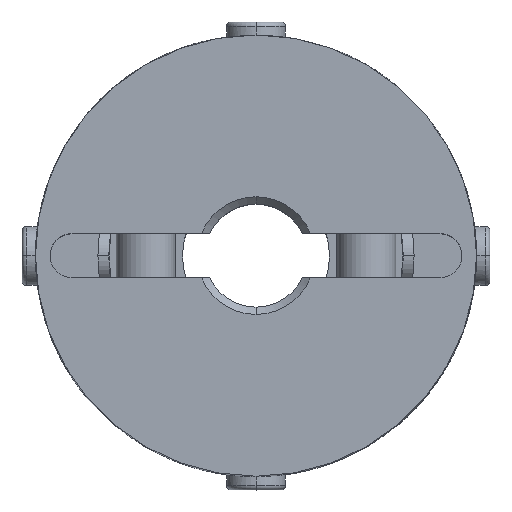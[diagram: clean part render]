
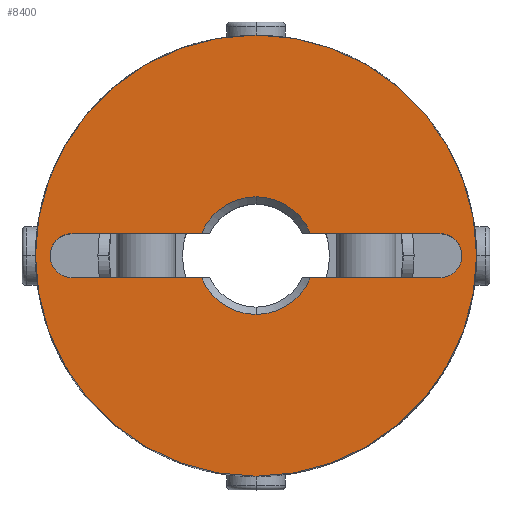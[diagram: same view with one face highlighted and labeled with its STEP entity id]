
A CAD part, top view. The second image highlights one B-rep face of the part: STEP entity #8400.
In plain terms, the highlighted planar face has unit normal (0, 0, 1).
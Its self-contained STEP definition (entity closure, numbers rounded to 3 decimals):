
#649=CARTESIAN_POINT('',(0.,4.,15.0));
#650=VERTEX_POINT('',#649);
#666=CARTESIAN_POINT('',(3.708,1.5,15.0));
#667=VERTEX_POINT('',#666);
#681=CARTESIAN_POINT('',(0.,0.,15.0));
#682=DIRECTION('',(0.0,0.0,1.0));
#683=DIRECTION('',(0.0,1.0,0.0));
#684=AXIS2_PLACEMENT_3D('',#681,#682,#683);
#685=CIRCLE('',#684,4.0);
#686=EDGE_CURVE('',#667,#650,#685,.T.);
#696=CARTESIAN_POINT('',(0.,-4.,15.0));
#697=VERTEX_POINT('',#696);
#706=CARTESIAN_POINT('',(3.708,-1.5,15.0));
#707=VERTEX_POINT('',#706);
#708=CARTESIAN_POINT('',(0.,0.,15.0));
#709=DIRECTION('',(0.0,0.0,1.0));
#710=DIRECTION('',(0.0,1.0,0.0));
#711=AXIS2_PLACEMENT_3D('',#708,#709,#710);
#712=CIRCLE('',#711,4.0);
#713=EDGE_CURVE('',#697,#707,#712,.T.);
#872=CARTESIAN_POINT('',(-13.561,-1.061,15.0));
#873=VERTEX_POINT('',#872);
#889=CARTESIAN_POINT('',(-12.5,1.5,15.0));
#890=VERTEX_POINT('',#889);
#897=CARTESIAN_POINT('',(-12.5,0.,15.0));
#898=DIRECTION('',(0.0,0.0,1.0));
#899=DIRECTION('',(-0.707,0.707,0.0));
#900=AXIS2_PLACEMENT_3D('',#897,#898,#899);
#901=CIRCLE('',#900,1.5);
#902=EDGE_CURVE('',#890,#873,#901,.T.);
#914=CARTESIAN_POINT('',(13.561,-1.061,15.0));
#915=VERTEX_POINT('',#914);
#931=CARTESIAN_POINT('',(12.5,-1.5,15.0));
#932=VERTEX_POINT('',#931);
#939=CARTESIAN_POINT('',(12.5,0.,15.0));
#940=DIRECTION('',(0.0,0.0,1.0));
#941=DIRECTION('',(0.707,-0.707,0.0));
#942=AXIS2_PLACEMENT_3D('',#939,#940,#941);
#943=CIRCLE('',#942,1.5);
#944=EDGE_CURVE('',#932,#915,#943,.T.);
#1489=CARTESIAN_POINT('',(0.,-15.,15.0));
#1490=VERTEX_POINT('',#1489);
#1497=CARTESIAN_POINT('',(0.,15.0,15.0));
#1498=VERTEX_POINT('',#1497);
#1499=CARTESIAN_POINT('',(0.,0.,15.0));
#1500=DIRECTION('',(0.0,0.0,-1.0));
#1501=DIRECTION('',(0.0,1.0,0.0));
#1502=AXIS2_PLACEMENT_3D('',#1499,#1500,#1501);
#1503=CIRCLE('',#1502,15.0);
#1504=EDGE_CURVE('',#1490,#1498,#1503,.T.);
#7601=CARTESIAN_POINT('',(0.,0.,15.0));
#7602=DIRECTION('',(0.0,0.0,-1.0));
#7603=DIRECTION('',(0.0,1.0,0.0));
#7604=AXIS2_PLACEMENT_3D('',#7601,#7602,#7603);
#7605=CIRCLE('',#7604,15.0);
#7606=EDGE_CURVE('',#1498,#1490,#7605,.T.);
#8166=CARTESIAN_POINT('',(12.5,1.5,15.0));
#8167=VERTEX_POINT('',#8166);
#8174=CARTESIAN_POINT('',(3.708,1.5,15.0));
#8175=DIRECTION('',(1.0,0.0,0.0));
#8176=VECTOR('',#8175,8.792);
#8177=LINE('',#8174,#8176);
#8178=EDGE_CURVE('',#667,#8167,#8177,.T.);
#8202=CARTESIAN_POINT('',(12.5,0.,15.0));
#8203=DIRECTION('',(0.0,0.0,1.0));
#8204=DIRECTION('',(0.707,-0.707,0.0));
#8205=AXIS2_PLACEMENT_3D('',#8202,#8203,#8204);
#8206=CIRCLE('',#8205,1.5);
#8207=EDGE_CURVE('',#915,#8167,#8206,.T.);
#8220=CARTESIAN_POINT('',(-12.5,-1.5,15.0));
#8221=VERTEX_POINT('',#8220);
#8222=CARTESIAN_POINT('',(-12.5,0.,15.0));
#8223=DIRECTION('',(0.0,0.0,1.0));
#8224=DIRECTION('',(-0.707,0.707,0.0));
#8225=AXIS2_PLACEMENT_3D('',#8222,#8223,#8224);
#8226=CIRCLE('',#8225,1.5);
#8227=EDGE_CURVE('',#873,#8221,#8226,.T.);
#8260=CARTESIAN_POINT('',(-3.708,1.5,15.0));
#8261=VERTEX_POINT('',#8260);
#8275=CARTESIAN_POINT('',(-12.5,1.5,15.0));
#8276=DIRECTION('',(1.0,0.0,0.0));
#8277=VECTOR('',#8276,8.792);
#8278=LINE('',#8275,#8277);
#8279=EDGE_CURVE('',#890,#8261,#8278,.T.);
#8294=CARTESIAN_POINT('',(-3.708,-1.5,15.0));
#8295=VERTEX_POINT('',#8294);
#8296=CARTESIAN_POINT('',(-3.708,-1.5,15.0));
#8297=DIRECTION('',(-1.0,0.0,0.0));
#8298=VECTOR('',#8297,8.792);
#8299=LINE('',#8296,#8298);
#8300=EDGE_CURVE('',#8295,#8221,#8299,.T.);
#8352=CARTESIAN_POINT('',(12.5,-1.5,15.0));
#8353=DIRECTION('',(-1.0,0.0,0.0));
#8354=VECTOR('',#8353,8.792);
#8355=LINE('',#8352,#8354);
#8356=EDGE_CURVE('',#932,#707,#8355,.T.);
#8365=CARTESIAN_POINT('',(0.,1.364,15.0));
#8366=DIRECTION('',(0.0,0.0,1.0));
#8367=DIRECTION('',(0.0,1.0,0.0));
#8368=AXIS2_PLACEMENT_3D('',#8365,#8366,#8367);
#8369=PLANE('',#8368);
#8370=ORIENTED_EDGE('',*,*,#7606,.F.);
#8371=ORIENTED_EDGE('',*,*,#1504,.F.);
#8372=EDGE_LOOP('',(#8370,#8371));
#8373=FACE_OUTER_BOUND('',#8372,.T.);
#8374=ORIENTED_EDGE('',*,*,#8178,.T.);
#8375=ORIENTED_EDGE('',*,*,#8207,.F.);
#8376=ORIENTED_EDGE('',*,*,#944,.F.);
#8377=ORIENTED_EDGE('',*,*,#8356,.T.);
#8378=ORIENTED_EDGE('',*,*,#713,.F.);
#8379=CARTESIAN_POINT('',(0.,0.,15.0));
#8380=DIRECTION('',(0.0,0.0,1.0));
#8381=DIRECTION('',(0.0,1.0,0.0));
#8382=AXIS2_PLACEMENT_3D('',#8379,#8380,#8381);
#8383=CIRCLE('',#8382,4.0);
#8384=EDGE_CURVE('',#8295,#697,#8383,.T.);
#8385=ORIENTED_EDGE('',*,*,#8384,.F.);
#8386=ORIENTED_EDGE('',*,*,#8300,.T.);
#8387=ORIENTED_EDGE('',*,*,#8227,.F.);
#8388=ORIENTED_EDGE('',*,*,#902,.F.);
#8389=ORIENTED_EDGE('',*,*,#8279,.T.);
#8390=CARTESIAN_POINT('',(0.,0.,15.0));
#8391=DIRECTION('',(0.0,0.0,1.0));
#8392=DIRECTION('',(0.0,1.0,0.0));
#8393=AXIS2_PLACEMENT_3D('',#8390,#8391,#8392);
#8394=CIRCLE('',#8393,4.0);
#8395=EDGE_CURVE('',#650,#8261,#8394,.T.);
#8396=ORIENTED_EDGE('',*,*,#8395,.F.);
#8397=ORIENTED_EDGE('',*,*,#686,.F.);
#8398=EDGE_LOOP('',(#8374,#8375,#8376,#8377,#8378,#8385,#8386,#8387,#8388,#8389,#8396,#8397));
#8399=FACE_BOUND('',#8398,.T.);
#8400=ADVANCED_FACE('',(#8373,#8399),#8369,.T.);
